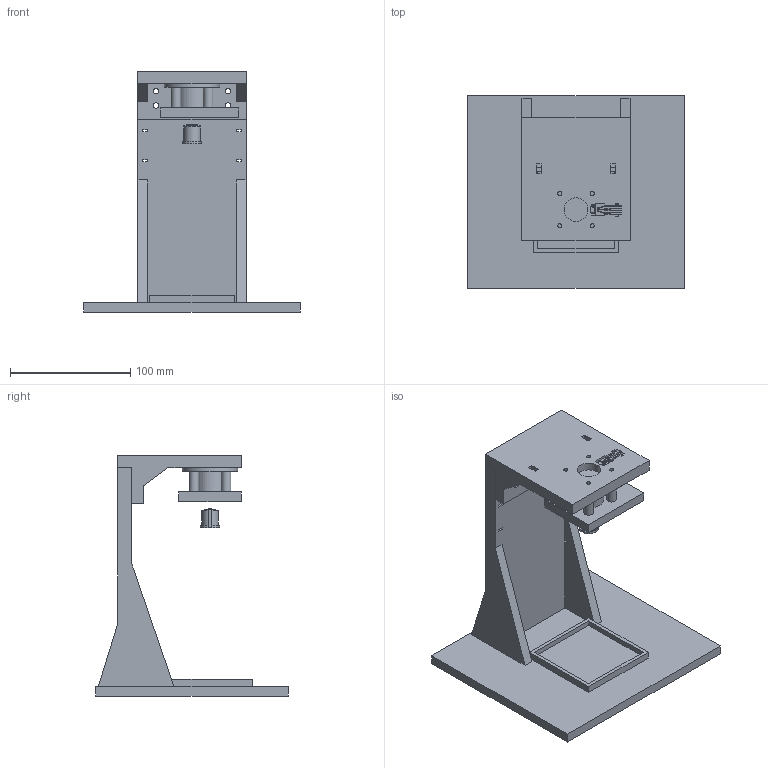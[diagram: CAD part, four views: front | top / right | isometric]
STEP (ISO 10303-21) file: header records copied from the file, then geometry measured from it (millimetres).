
FILE_DESCRIPTION(('Open CASCADE Model'),'2;1');
FILE_NAME('Open CASCADE Shape Model','2026-11-11T17:26:39',('Author'),( 'Open CASCADE'),'Open CASCADE STEP processor 7.9','Open CASCADE 7.9' ,'Unknown');
FILE_SCHEMA(('AUTOMOTIVE_DESIGN { 1 0 10303 214 1 1 1 1 }'));
Length unit declared in the file: millimetre
Products named in the file (16): testbox1_purchased_parts; 01_frame_base_upright_tray; 02_cantilever_vented_head_upper_sensor; 03_four_DC1_stack_cassette_lower_LPG_seat; 04_D68_payload_carrier; REF_EM_nominal_25x20; REF_DC1_disk_1; REF_DC1_disk_2; REF_DC1_disk_3; REF_DC1_disk_4; REF_D68_N52_gap15; REF_DRV5056_lower_LPG_max_body; REF_DRV5056_upper_LPG_max_body; REF_lower_leads_formed; REF_upper_leads_formed; REF_nylon_retaining_loop_envelope
Assembly tree (15 placements, depth 2):
  testbox1_purchased_parts
    01_frame_base_upright_tray
    02_cantilever_vented_head_upper_sensor
    03_four_DC1_stack_cassette_lower_LPG_seat
    04_D68_payload_carrier
    REF_EM_nominal_25x20
    REF_DC1_disk_1
    REF_DC1_disk_2
    REF_DC1_disk_3
    REF_DC1_disk_4
    REF_D68_N52_gap15
    REF_DRV5056_lower_LPG_max_body
    REF_DRV5056_upper_LPG_max_body
    REF_lower_leads_formed
    REF_upper_leads_formed
    REF_nylon_retaining_loop_envelope
Bounding box: 180 x 160 x 200 mm (x, y, z)
Volume: 633331.7 mm3; surface area: 164495.3 mm2
Topology: 19 solids, 19 shells, 386 faces, 1022 edges, 676 vertices
Faces by surface type: plane 344, cylinder 42
Full cylindrical faces by diameter (mm): 0.55 x6, 3.4 x8, 4.5 x8, 8 x4, 9.525 x1, 10 x1, 19.05 x4, 19.6 x2, 25 x1, 46 x1
Entity records: 25251 total; most frequent: CARTESIAN_POINT 4946, DIRECTION 3420, LINE 2180, VECTOR 2180, ORIENTED_EDGE 2044, PCURVE 2044, DEFINITIONAL_REPRESENTATION 2044, EDGE_CURVE 1022
